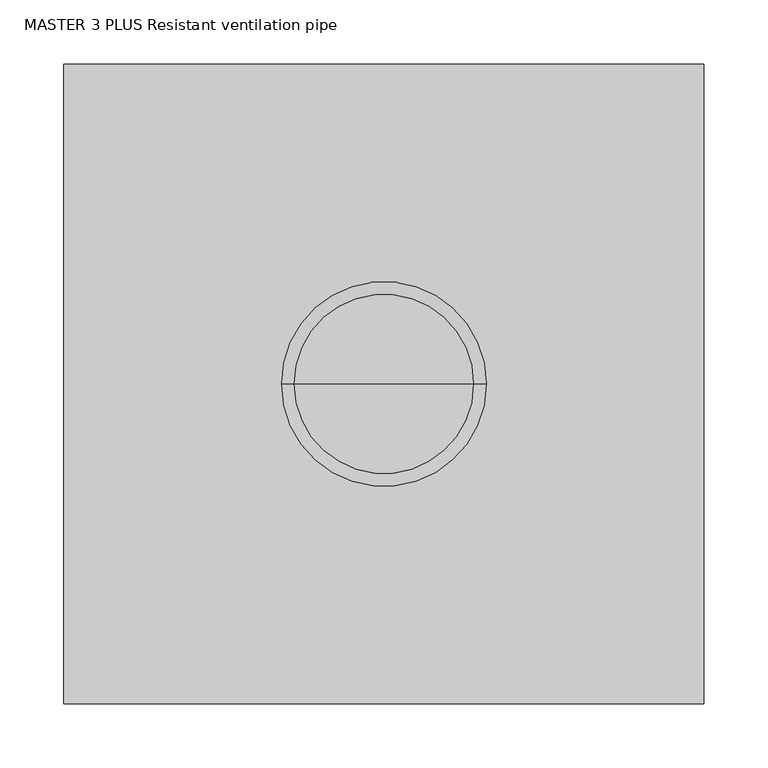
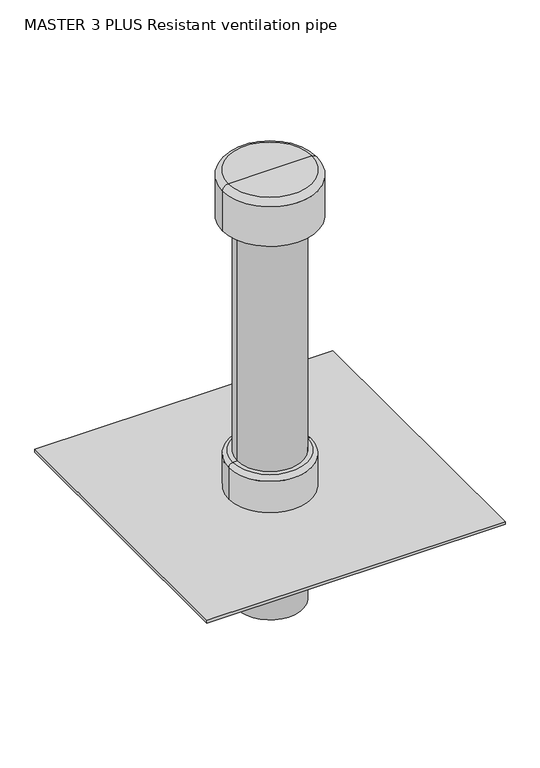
"""IFC4 building model written with IfcOpenShell, lengths in millimetres: valve geometry, MASTER 3 PLUS Resistant ventilation pipe : DN110, Lesp = 200, L3 = 560 mm."""

import ifcopenshell
import ifcopenshell.guid

model = None  # the IFC model being written
_history = None  # IfcOwnerHistory: only IFC2X3 demands one
_inside = {}  # id of a spatial element -> (the spatial element, [elements in it])
_under = {}  # id of a project, library or spatial element -> (it, [spatial elements below it])
_declared = {}  # id of a project -> (the project, [libraries it declares])
_typed = {}  # id of a type object -> (the type object, [elements of that type])
_made_of = {}  # id of a material, layer set ... -> (it, [elements and type objects made of it])


def new_model(schema):
    """Start an empty IFC model of exactly this schema.

    Asked for "IFC4X3", IfcOpenShell would pick the latest addendum, in which some entities
    have other attributes; the version numbers below select the first issue.
    IFC2X3 requires an IfcOwnerHistory on every rooted entity: one is made here for all.
    """
    global model, _history
    if schema == "IFC4X3":
        model = ifcopenshell.file(schema_version=(4, 3, 0, 0))
    else:
        model = ifcopenshell.file(schema=schema)
    _inside.clear()
    _under.clear()
    _declared.clear()
    _typed.clear()
    _made_of.clear()
    _history = None
    if model.schema == "IFC2X3":
        org = make("IfcOrganization", Name="unknown")
        user = make(
            "IfcPersonAndOrganization",
            ThePerson=make("IfcPerson", FamilyName="unknown"),
            TheOrganization=org,
        )
        app = make(
            "IfcApplication",
            ApplicationDeveloper=org,
            Version="unknown",
            ApplicationFullName="unknown",
            ApplicationIdentifier="unknown",
        )
        _history = make(
            "IfcOwnerHistory",
            OwningUser=user,
            OwningApplication=app,
            ChangeAction="ADDED",
            CreationDate=0,
        )
    return model


def make(cls, **values):
    """One entity of the class cls with the attributes given. An attribute that is None is left unset."""
    return model.create_entity(
        cls, **{name: value for name, value in values.items() if value is not None}
    )


def rooted(cls, **values):
    """An entity with a GlobalId (a new one), such as an element, a storey or a relation."""
    return make(cls, GlobalId=ifcopenshell.guid.new(), OwnerHistory=_history, **values)


def si_unit(unit_type, name, prefix=None):
    """IfcSIUnit, for example si_unit("LENGTHUNIT", "METRE", prefix="MILLI")."""
    return make("IfcSIUnit", UnitType=unit_type, Prefix=prefix, Name=name)


def assignment(units):
    """IfcUnitAssignment: the units of a project."""
    return None if units is None else make("IfcUnitAssignment", Units=units)


def point(xyz):
    """IfcCartesianPoint."""
    return None if xyz is None else make("IfcCartesianPoint", Coordinates=xyz)


def direction(xyz):
    """IfcDirection."""
    return None if xyz is None else make("IfcDirection", DirectionRatios=xyz)


def frame(location, z_axis=None, x_axis=None):
    """IfcAxis2Placement3D, a coordinate frame: its origin and axes. An axis left out is left unset."""
    return make(
        "IfcAxis2Placement3D",
        Location=point(location),
        Axis=direction(z_axis),
        RefDirection=direction(x_axis),
    )


def frame_2d(location, x_axis=None):
    """IfcAxis2Placement2D, a coordinate frame in the plane: its origin and x axis."""
    return make(
        "IfcAxis2Placement2D", Location=point(location), RefDirection=direction(x_axis)
    )


def origin():
    """The frame at (0, 0, 0) with its axes left unset."""
    return frame((0.0, 0.0, 0.0))


def origin_with_axes():
    """The frame at (0, 0, 0) with the z axis (0, 0, 1) and the x axis (1, 0, 0) written out."""
    return frame((0.0, 0.0, 0.0), z_axis=(0.0, 0.0, 1.0), x_axis=(1.0, 0.0, 0.0))


def origin_2d():
    """The frame at (0, 0) in the plane with its x axis left unset."""
    return frame_2d((0.0, 0.0))


def place(relative_to, where):
    """IfcLocalPlacement: puts the frame where relative to a parent placement (None: the world)."""
    return make(
        "IfcLocalPlacement", PlacementRelTo=relative_to, RelativePlacement=where
    )


def context(
    kind, dimensions, precision=None, world=None, true_north=None, identifier=None
):
    """IfcGeometricRepresentationContext, for example the 3D "Model" context."""
    return make(
        "IfcGeometricRepresentationContext",
        ContextIdentifier=identifier,
        ContextType=kind,
        CoordinateSpaceDimension=dimensions,
        Precision=precision,
        WorldCoordinateSystem=world,
        TrueNorth=true_north,
    )


def project(units=None, contexts=None):
    """IfcProject with its units and contexts."""
    return rooted(
        "IfcProject",
        Name="project",
        RepresentationContexts=contexts,
        UnitsInContext=assignment(units),
    )


def spatial(cls, under=None, at=None, **own):
    """A site, building, storey or space (cls), placed at a placement, below another one or the project."""
    s = rooted(cls, ObjectPlacement=at, **own)
    if under is not None:
        _under.setdefault(under.id(), (under, []))[1].append(s)
    return s


def polyline(points):
    """IfcPolyline through the points."""
    return make("IfcPolyline", Points=[point(p) for p in points])


def circle_curve(where, radius):
    """IfcCircle in the frame where."""
    return make("IfcCircle", Position=where, Radius=radius)


def ellipse_curve(where, semi_axis1, semi_axis2):
    """IfcEllipse in the frame where."""
    return make(
        "IfcEllipse", Position=where, SemiAxis1=semi_axis1, SemiAxis2=semi_axis2
    )


def trimmed(basis, trim1, trim2, sense, master):
    """IfcTrimmedCurve: the piece of a basis curve between two trims."""
    return make(
        "IfcTrimmedCurve",
        BasisCurve=basis,
        Trim1=trim1,
        Trim2=trim2,
        SenseAgreement=sense,
        MasterRepresentation=master,
    )


def segment(curve, same_sense, transition):
    """IfcCompositeCurveSegment."""
    return make(
        "IfcCompositeCurveSegment",
        Transition=transition,
        SameSense=same_sense,
        ParentCurve=curve,
    )


def composite_curve(segments, self_intersect=None):
    """IfcCompositeCurve: segments joined end to end."""
    return make("IfcCompositeCurve", Segments=segments, SelfIntersect=self_intersect)


def outline(outer, holes=None, kind="AREA"):
    """IfcArbitraryClosedProfileDef: a profile drawn as a closed curve; with holes, ...WithVoids."""
    if holes is None:
        return make("IfcArbitraryClosedProfileDef", ProfileType=kind, OuterCurve=outer)
    return make(
        "IfcArbitraryProfileDefWithVoids",
        ProfileType=kind,
        OuterCurve=outer,
        InnerCurves=holes,
    )


def extrude(swept, where, along, depth):
    """IfcExtrudedAreaSolid: the profile swept, set in the frame where, extruded along a direction by depth."""
    return make(
        "IfcExtrudedAreaSolid",
        SweptArea=swept,
        Position=where,
        ExtrudedDirection=direction(along),
        Depth=depth,
    )


def shape(context_of_items, identifier, shape_type, items):
    """IfcShapeRepresentation: the items that make up one representation, for example the "Body"."""
    return make(
        "IfcShapeRepresentation",
        ContextOfItems=context_of_items,
        RepresentationIdentifier=identifier,
        RepresentationType=shape_type,
        Items=items,
    )


def source(mapping_origin, context_of_items, identifier, shape_type, items):
    """IfcRepresentationMap: a shape defined once, which mapped items show again and again."""
    return make(
        "IfcRepresentationMap",
        MappingOrigin=mapping_origin,
        MappedRepresentation=shape(context_of_items, identifier, shape_type, items),
    )


def transform(
    local_origin,
    x_axis=None,
    y_axis=None,
    z_axis=None,
    scale=None,
    scale2=None,
    scale3=None,
    uniform=True,
):
    """IfcCartesianTransformationOperator3D, or its non-uniform kind. x_axis, y_axis, z_axis: its Axis1, 2, 3."""
    if uniform:
        return make(
            "IfcCartesianTransformationOperator3D",
            Axis1=direction(x_axis),
            Axis2=direction(y_axis),
            LocalOrigin=point(local_origin),
            Scale=scale,
            Axis3=direction(z_axis),
        )
    return make(
        "IfcCartesianTransformationOperator3DnonUniform",
        Axis1=direction(x_axis),
        Axis2=direction(y_axis),
        LocalOrigin=point(local_origin),
        Scale=scale,
        Axis3=direction(z_axis),
        Scale2=scale2,
        Scale3=scale3,
    )


def mapped(mapping_source, mapping_target):
    """IfcMappedItem: shows the shape of a source again, moved by a transform."""
    return make(
        "IfcMappedItem", MappingSource=mapping_source, MappingTarget=mapping_target
    )


def made_of(thing, what):
    """Note that an element or type object is made of a material, layer set ...; save() writes the relation."""
    if what is not None:
        _made_of.setdefault(what.id(), (what, []))[1].append(thing)
    return thing


def element(
    cls,
    number,
    at=None,
    inside=None,
    cuts=None,
    type_object=None,
    material=None,
    context=None,
    identifier="Body",
    shape_type=None,
    held_by="IfcProductDefinitionShape",
    body=None,
    shapes=None,
    **own,
):
    """One element of the class cls, such as IfcWall. Its Tag is "e" and its number.

    at: its placement. inside: the storey or other place that contains it. cuts: it is an
    opening in that element (IfcRelVoidsElement). A single representation is given by context,
    identifier, shape_type and body (its items); several are given by shapes. held_by: the class
    of the entity that holds the representations. save() writes the other relations.
    """
    e = rooted(cls, Tag="e%d" % number, ObjectPlacement=at, **own)
    if body is not None:
        shapes = [shape(context, identifier, shape_type, body)]
    if shapes is not None:
        e.Representation = make(held_by, Representations=shapes)
    if inside is not None:
        _inside.setdefault(inside.id(), (inside, []))[1].append(e)
    if cuts is not None:
        rooted(
            "IfcRelVoidsElement", RelatingBuildingElement=cuts, RelatedOpeningElement=e
        )
    if type_object is not None:
        _typed.setdefault(type_object.id(), (type_object, []))[1].append(e)
    return made_of(e, material)


def aggregate(whole, parts):
    """IfcRelAggregates: a whole, such as a stair, and the parts it consists of."""
    return rooted("IfcRelAggregates", RelatingObject=whole, RelatedObjects=parts)


def save(model, path):
    """Write the relations noted so far, then the file.

    IfcRelAggregates (storeys below a building ...), IfcRelContainedInSpatialStructure (elements
    in a storey), IfcRelDefinesByType, IfcRelAssociatesMaterial and IfcRelDeclares: one each for
    every whole, place, type object, material and project.
    """
    for whole, parts in _under.values():
        aggregate(whole, parts)
    for where, things in _inside.values():
        rooted(
            "IfcRelContainedInSpatialStructure",
            RelatedElements=things,
            RelatingStructure=where,
        )
    for kind, things in _typed.values():
        rooted("IfcRelDefinesByType", RelatedObjects=things, RelatingType=kind)
    for what, things in _made_of.values():
        rooted("IfcRelAssociatesMaterial", RelatedObjects=things, RelatingMaterial=what)
    for by, libraries in _declared.values():
        rooted("IfcRelDeclares", RelatingContext=by, RelatedDefinitions=libraries)
    model.write(path)


def plane_surface(at):
    """IfcPlane: the flat surface through the origin of the frame at, square to its z axis."""
    return make("IfcPlane", Position=at)


def cylinder_surface(at, radius):
    """IfcCylindricalSurface: all points at the distance radius from the z axis of the frame at."""
    return make("IfcCylindricalSurface", Position=at, Radius=radius)


def revolved_surface(curve, axis_point, axis_direction):
    """IfcSurfaceOfRevolution: the curve turned about the line through axis_point along axis_direction."""
    return make(
        "IfcSurfaceOfRevolution",
        SweptCurve=make("IfcArbitraryOpenProfileDef", ProfileType="CURVE", Curve=curve),
        AxisPosition=make("IfcAxis1Placement", Location=point(axis_point), Axis=direction(axis_direction)),
    )


def advanced_brep(points, edges, surfaces, faces):
    """IfcAdvancedBrep: a solid bounded by faces that lie on surfaces and meet in shared edges.

    An edge is (start, end): straight between two places in points (the first is 0);
    or (start, end, curve); or (start, end, curve, False) where it runs against its curve.
    A face is (place in surfaces, loops), or (place, loops, False) where it looks against
    its surface's normal. A loop lists edges by number (the first is 1), with a minus sign
    where the edge is run from its end to its start. The first loop is the outer one.
    """
    corners = [point(p) for p in points]
    vertices = [make("IfcVertexPoint", VertexGeometry=c) for c in corners]
    made = []
    for start, end, *more in edges:
        made.append(
            make(
                "IfcEdgeCurve",
                EdgeStart=vertices[start],
                EdgeEnd=vertices[end],
                EdgeGeometry=more[0] if more else make("IfcPolyline", Points=[corners[start], corners[end]]),
                SameSense=more[1] if len(more) > 1 else True,
            )
        )
    hull = []
    for where, loops, *sense in faces:
        bounds = []
        for j, loop in enumerate(loops):
            ring = [make("IfcOrientedEdge", EdgeElement=made[abs(k) - 1], Orientation=k > 0) for k in loop]
            bounds.append(
                make(
                    "IfcFaceOuterBound" if j == 0 else "IfcFaceBound",
                    Bound=make("IfcEdgeLoop", EdgeList=ring),
                    Orientation=True,
                )
            )
        hull.append(make("IfcAdvancedFace", Bounds=bounds, FaceSurface=surfaces[where], SameSense=sense[0] if sense else True))
    return make("IfcAdvancedBrep", Outer=make("IfcClosedShell", CfsFaces=hull))


def master_3_plus_resistant_ventilation_pipe_35447199(model_context):
    return source(origin(), model_context, "Body", "SolidModel", [
        advanced_brep(
        [(70.0, 0.0, 760.0), (-70.0, 0.0, 760.0), (0.0, 0.0, 760.0), (80.0, 0.0, 680.0), (-80.0, 0.0, 680.0), (-80.0, 0.0, 750.0), (80.0, 0.0, 750.0), (0.0, 0.0, 680.0)],
        [
            (0, 1, circle_curve(frame((0.0, 0.0, 760.0), z_axis=(0.0, 0.0, 1.0), x_axis=(-1.0, 0.0, 0.0)), 70.0)),
            (1, 2),
            (2, 0),
            (1, 0, circle_curve(frame((0.0, 0.0, 760.0), z_axis=(0.0, 0.0, 1.0), x_axis=(-1.0, 0.0, 0.0)), 70.0)),
            (3, 4, circle_curve(frame((0.0, 0.0, 680.0), z_axis=(0.0, 0.0, 1.0), x_axis=(-1.0, 0.0, 0.0)), 80.0)),
            (4, 5),
            (5, 6, circle_curve(frame((0.0, 0.0, 750.0), z_axis=(0.0, 0.0, -1.0), x_axis=(-1.0, 0.0, 0.0)), 80.0)),
            (6, 3),
            (4, 3, circle_curve(frame((0.0, 0.0, 680.0), z_axis=(0.0, 0.0, 1.0), x_axis=(-1.0, 0.0, 0.0)), 80.0)),
            (6, 5, circle_curve(frame((0.0, 0.0, 750.0), z_axis=(0.0, 0.0, -1.0), x_axis=(-1.0, 0.0, 0.0)), 80.0)),
            (7, 4),
            (3, 7),
            (5, 1, circle_curve(frame((-70.0, 0.0, 750.0), z_axis=(0.0, 1.0, 0.0), x_axis=(1.0, 0.0, 0.0)), 10.0)),
            (0, 6, circle_curve(frame((70.0, 0.0, 750.0), z_axis=(0.0, 1.0, 0.0), x_axis=(-1.0, 0.0, 0.0)), 10.0)),
        ],
        [
            plane_surface(frame((0.0, 0.0, 760.0), z_axis=(0.0, 0.0, 1.0), x_axis=(-1.0, 0.0, 0.0))),
            cylinder_surface(frame((0.0, 0.0, 760.0), z_axis=(0.0, 0.0, -1.0), x_axis=(-1.0, 0.0, 0.0)), 80.0),
            plane_surface(frame((0.0, 0.0, 680.0), z_axis=(0.0, 0.0, -1.0), x_axis=(-1.0, 0.0, 0.0))),
            revolved_surface(trimmed(ellipse_curve(frame((-70.0, 0.0, 750.0), z_axis=(0.0, -1.0, 0.0), x_axis=(1.0, 0.0, 0.0)), 10.0, 10.0), [point((-70.0, 0.0, 760.0))], [point((-80.0, 0.0, 750.0))], True, "CARTESIAN"), (0.0, 0.0, 760.0), (0.0, 0.0, -1.0)),
        ],
        [
            (0, [[1, 2, 3]]),
            (0, [[4, -3, -2]]),
            (1, [[5, 6, 7, 8]]),
            (1, [[9, -8, 10, -6]]),
            (2, [[11, -5, 12]]),
            (2, [[-12, -9, -11]]),
            (3, [[-7, 13, -1, 14]]),
            (3, [[-10, -14, -4, -13]]),
        ],
    ),
        extrude(outline(polyline([(250.0, 250.0), (250.0, -250.0), (-250.0, -250.0), (-250.0, 250.0), (250.0, 250.0)]), holes=[composite_curve([segment(trimmed(circle_curve(origin_2d(), 55.0), [point((-55.0, 0.0))], [point((55.0, 0.0))], True, "CARTESIAN"), True, "CONTINUOUS"), segment(trimmed(circle_curve(origin_2d(), 55.0), [point((55.0, 0.0))], [point((-55.0, 0.0))], True, "CARTESIAN"), True, "CONTINUOUS")], self_intersect=False)]), frame((0.0, 0.0, 194.9838403), z_axis=(0.0, 0.0, 1.0), x_axis=(1.0, 0.0, 0.0)), (0.0, 0.0, 1.0), 5.0161597),
        advanced_brep(
        [(69.5, 0.0, 200.0), (-69.5, 0.0, 200.0), (-69.5, 0.0, 255.75), (69.5, 0.0, 255.75), (55.0, 0.0, 200.0), (-55.0, 0.0, 200.0), (55.0, 0.0, 263.0), (-55.0, 0.0, 263.0), (62.25, 0.0, 263.0), (-62.25, 0.0, 263.0)],
        [
            (0, 1, circle_curve(frame((0.0, 0.0, 200.0), z_axis=(0.0, 0.0, 1.0), x_axis=(-1.0, 0.0, 0.0)), 69.5)),
            (1, 2),
            (2, 3, circle_curve(frame((0.0, 0.0, 255.75), z_axis=(0.0, 0.0, -1.0), x_axis=(-1.0, 0.0, 0.0)), 69.5)),
            (3, 0),
            (1, 0, circle_curve(frame((0.0, 0.0, 200.0), z_axis=(0.0, 0.0, 1.0), x_axis=(-1.0, 0.0, 0.0)), 69.5)),
            (3, 2, circle_curve(frame((0.0, 0.0, 255.75), z_axis=(0.0, 0.0, -1.0), x_axis=(-1.0, 0.0, 0.0)), 69.5)),
            (4, 5, circle_curve(frame((0.0, 0.0, 200.0), z_axis=(0.0, 0.0, 1.0), x_axis=(-1.0, 0.0, 0.0)), 55.0)),
            (5, 1),
            (0, 4),
            (5, 4, circle_curve(frame((0.0, 0.0, 200.0), z_axis=(0.0, 0.0, 1.0), x_axis=(-1.0, 0.0, 0.0)), 55.0)),
            (6, 7, circle_curve(frame((0.0, 0.0, 263.0), z_axis=(0.0, 0.0, 1.0), x_axis=(-1.0, 0.0, 0.0)), 55.0)),
            (7, 5),
            (4, 6),
            (7, 6, circle_curve(frame((0.0, 0.0, 263.0), z_axis=(0.0, 0.0, 1.0), x_axis=(-1.0, 0.0, 0.0)), 55.0)),
            (8, 9, circle_curve(frame((0.0, 0.0, 263.0), z_axis=(0.0, 0.0, 1.0), x_axis=(-1.0, 0.0, 0.0)), 62.25)),
            (9, 7),
            (6, 8),
            (9, 8, circle_curve(frame((0.0, 0.0, 263.0), z_axis=(0.0, 0.0, 1.0), x_axis=(-1.0, 0.0, 0.0)), 62.25)),
            (2, 9, circle_curve(frame((-62.25, 0.0, 255.75), z_axis=(0.0, 1.0, 0.0), x_axis=(1.0, 0.0, 0.0)), 7.25)),
            (8, 3, circle_curve(frame((62.25, 0.0, 255.75), z_axis=(0.0, 1.0, 0.0), x_axis=(-1.0, 0.0, 0.0)), 7.25)),
        ],
        [
            cylinder_surface(frame((0.0, 0.0, 263.0), z_axis=(0.0, 0.0, -1.0), x_axis=(-1.0, 0.0, 0.0)), 69.5),
            plane_surface(frame((0.0, 0.0, 200.0), z_axis=(0.0, 0.0, -1.0), x_axis=(-1.0, 0.0, 0.0))),
            revolved_surface(polyline([(-55.0, 0.0, 200.0), (-55.0, 0.0, 263.0)]), (0.0, 0.0, 263.0), (0.0, 0.0, -1.0)),
            plane_surface(frame((0.0, 0.0, 263.0), z_axis=(0.0, 0.0, 1.0), x_axis=(-1.0, 0.0, 0.0))),
            revolved_surface(trimmed(ellipse_curve(frame((-62.25, 0.0, 255.75), z_axis=(0.0, -1.0, 0.0), x_axis=(1.0, 0.0, 0.0)), 7.25, 7.25), [point((-62.25, 0.0, 263.0))], [point((-69.5, 0.0, 255.75))], True, "CARTESIAN"), (0.0, 0.0, 263.0), (0.0, 0.0, -1.0)),
        ],
        [
            (0, [[1, 2, 3, 4]]),
            (0, [[5, -4, 6, -2]]),
            (1, [[7, 8, -1, 9]]),
            (1, [[10, -9, -5, -8]]),
            (2, [[11, 12, -7, 13]]),
            (2, [[14, -13, -10, -12]]),
            (3, [[15, 16, -11, 17]]),
            (3, [[18, -17, -14, -16]]),
            (4, [[-3, 19, -15, 20]]),
            (4, [[-6, -20, -18, -19]]),
        ],
    ),
        extrude(outline(composite_curve([segment(trimmed(circle_curve(origin_2d(), 55.0), [point((55.0, 0.0))], [point((-55.0, 0.0))], False, "CARTESIAN"), True, "CONTINUOUS"), segment(trimmed(circle_curve(origin_2d(), 55.0), [point((-55.0, 0.0))], [point((55.0, 0.0))], False, "CARTESIAN"), True, "CONTINUOUS")], self_intersect=False)), frame((0.0, 0.0, 200.0), z_axis=(0.0, 0.0, 1.0), x_axis=(1.0, 0.0, 0.0)), (0.0, 0.0, 1.0), 532.0),
        extrude(outline(composite_curve([segment(trimmed(circle_curve(origin_2d(), 55.0), [point((-55.0, 0.0))], [point((55.0, 0.0))], False, "CARTESIAN"), True, "CONTINUOUS"), segment(trimmed(circle_curve(origin_2d(), 55.0), [point((55.0, 0.0))], [point((-55.0, 0.0))], False, "CARTESIAN"), True, "CONTINUOUS")], self_intersect=False)), origin_with_axes(), (0.0, 0.0, 1.0), 194.9838403),
    ])


if __name__ == "__main__":
    model = new_model("IFC4")
    model_context = context("Model", 3, world=origin())
    ifc_project = project(units=[si_unit("LENGTHUNIT", "METRE", prefix="MILLI")], contexts=[model_context])
    site = spatial("IfcSite", under=ifc_project)
    building = spatial("IfcBuilding", under=site)
    placement = place(None, origin())
    master_3_plus_resistant_ventilation_pipe_shape = master_3_plus_resistant_ventilation_pipe_35447199(model_context)
    element("IfcValve", 1, ObjectType="MASTER 3 PLUS Resistant ventilation pipe : DN110, Lesp = 200, L3 = 560 mm", at=placement, inside=building, context=model_context, shape_type="MappedRepresentation", body=[
        mapped(master_3_plus_resistant_ventilation_pipe_shape, transform((0.0, 0.0, 0.0), x_axis=(1.0, 0.0, 0.0), y_axis=(0.0, 1.0, 0.0), z_axis=(0.0, 0.0, 1.0))),
    ])
    save(model, "model.ifc")
